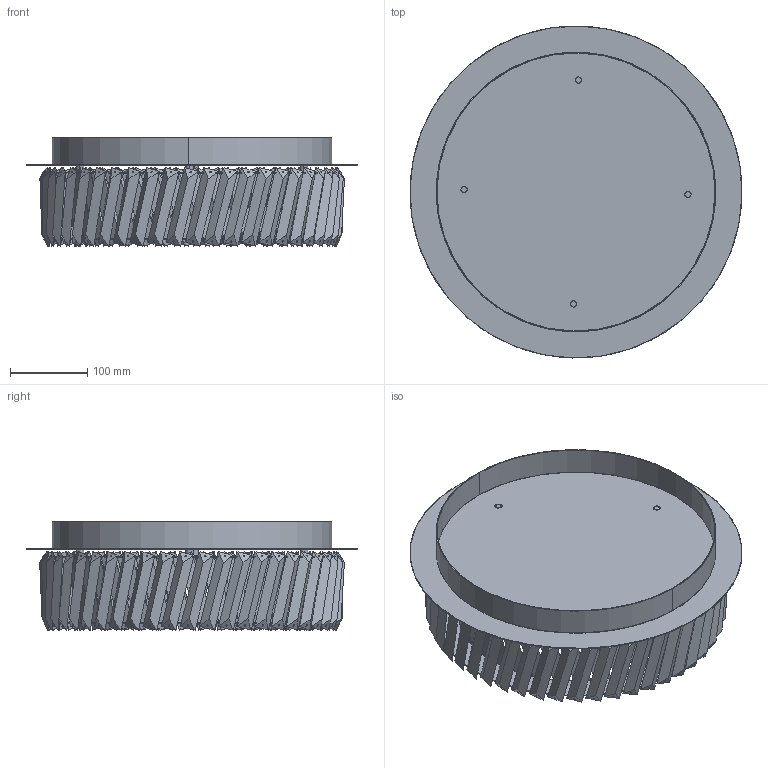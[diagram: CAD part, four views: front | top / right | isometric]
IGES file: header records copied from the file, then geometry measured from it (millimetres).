
Start section: SolidWorks IGES file using analytic representation for surfaces
Global section: file name: Y:\PRODUKT\Modele_3D_WWW\LUXORA\LUXORA PLAFON\LUXORE PLAFON.IGS; native system: SolidWorks 2024; preprocessor: SolidWorks 2024; author: anna.bielnik; date: 250226.141023; units: millimetre
Bounding box: 429.9 x 429.9 x 140.4 mm (x, y, z)
Surface area: 898243 mm2 (no closed solid volume)
Topology: 0 solids, 0 shells, 956 faces, 13828 edges, 13828 vertices
Faces by surface type: bspline 600, revolution 356
